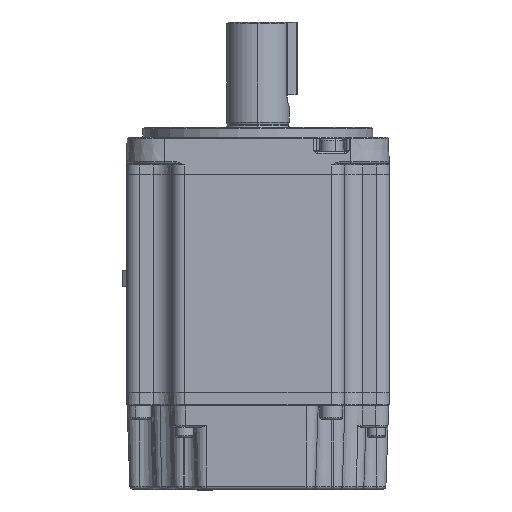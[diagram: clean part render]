
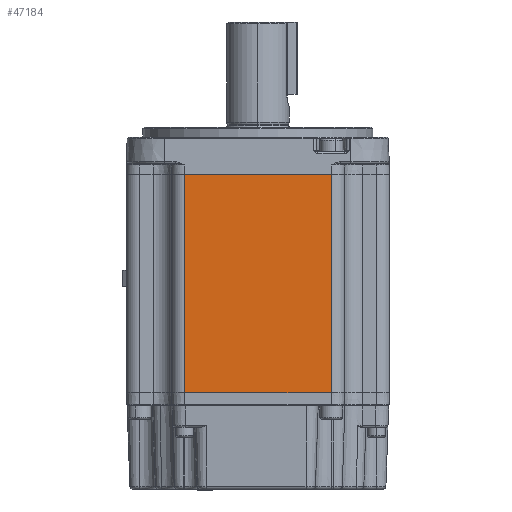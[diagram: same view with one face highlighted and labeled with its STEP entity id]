
A CAD part, front view. The second image highlights one B-rep face of the part: STEP entity #47184.
In plain terms, the highlighted planar face has unit normal (0, -1, 0).
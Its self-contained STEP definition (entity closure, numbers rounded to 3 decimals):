
#876 = PLANE ( 'NONE',  #17448 ) ;
#1375 = DIRECTION ( 'NONE',  ( 0., 1., 0. ) ) ;
#2943 = DIRECTION ( 'NONE',  ( 1., 0., 0. ) ) ;
#3463 = VECTOR ( 'NONE', #17641, 1000. ) ;
#3620 = CARTESIAN_POINT ( 'NONE',  ( -22.3, -40., 34.2 ) ) ;
#7118 = ORIENTED_EDGE ( 'NONE', *, *, #29041, .F. ) ;
#9148 = CARTESIAN_POINT ( 'NONE',  ( 22.3, -40., -33.2 ) ) ;
#10027 = ORIENTED_EDGE ( 'NONE', *, *, #53116, .F. ) ;
#14267 = CARTESIAN_POINT ( 'NONE',  ( -22.3, -40., -33.2 ) ) ;
#14469 = CARTESIAN_POINT ( 'NONE',  ( 22.3, -40., 33.2 ) ) ;
#15768 = VERTEX_POINT ( 'NONE', #52114 ) ;
#17448 = AXIS2_PLACEMENT_3D ( 'NONE', #42031, #1375, #23869 ) ;
#17641 = DIRECTION ( 'NONE',  ( 0., 0., -1. ) ) ;
#23051 = VECTOR ( 'NONE', #25563, 1000. ) ;
#23869 = DIRECTION ( 'NONE',  ( -1., 0., 0. ) ) ;
#25563 = DIRECTION ( 'NONE',  ( 0., 0., -1. ) ) ;
#27073 = VERTEX_POINT ( 'NONE', #9148 ) ;
#27122 = EDGE_CURVE ( 'NONE', #15768, #46786, #54730, .T. ) ;
#29041 = EDGE_CURVE ( 'NONE', #15768, #39597, #63331, .T. ) ;
#32197 = EDGE_LOOP ( 'NONE', ( #10027, #41077, #7118, #51433 ) ) ;
#36552 = DIRECTION ( 'NONE',  ( -1., 0., 0. ) ) ;
#39597 = VERTEX_POINT ( 'NONE', #14469 ) ;
#41077 = ORIENTED_EDGE ( 'NONE', *, *, #68231, .F. ) ;
#42031 = CARTESIAN_POINT ( 'NONE',  ( -22.3, -40., 34.2 ) ) ;
#44066 = VECTOR ( 'NONE', #36552, 1000. ) ;
#46786 = VERTEX_POINT ( 'NONE', #14267 ) ;
#47184 = ADVANCED_FACE ( 'NONE', ( #49146 ), #876, .F. ) ;
#47737 = LINE ( 'NONE', #66560, #44066 ) ;
#49146 = FACE_OUTER_BOUND ( 'NONE', #32197, .T. ) ;
#51433 = ORIENTED_EDGE ( 'NONE', *, *, #27122, .T. ) ;
#52114 = CARTESIAN_POINT ( 'NONE',  ( -22.3, -40., 33.2 ) ) ;
#53116 = EDGE_CURVE ( 'NONE', #27073, #46786, #47737, .T. ) ;
#54730 = LINE ( 'NONE', #3620, #23051 ) ;
#59689 = LINE ( 'NONE', #75121, #3463 ) ;
#63331 = LINE ( 'NONE', #66522, #69646 ) ;
#66522 = CARTESIAN_POINT ( 'NONE',  ( -22.3, -40., 33.2 ) ) ;
#66560 = CARTESIAN_POINT ( 'NONE',  ( -22.3, -40., -33.2 ) ) ;
#68231 = EDGE_CURVE ( 'NONE', #39597, #27073, #59689, .T. ) ;
#69646 = VECTOR ( 'NONE', #2943, 1000. ) ;
#75121 = CARTESIAN_POINT ( 'NONE',  ( 22.3, -40., 34.2 ) ) ;
